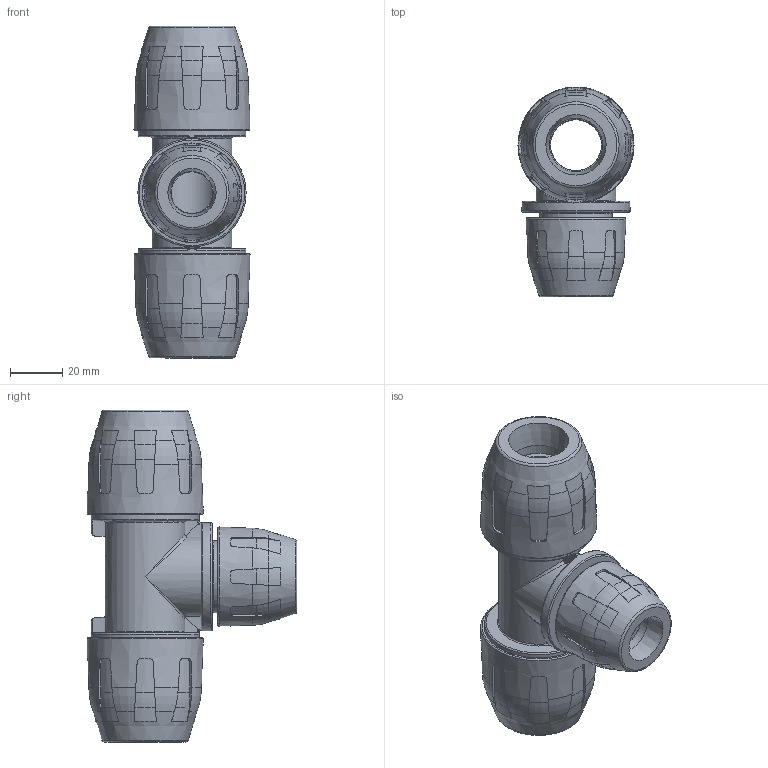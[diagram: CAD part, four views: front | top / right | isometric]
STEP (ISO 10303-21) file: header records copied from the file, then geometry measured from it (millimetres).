
FILE_DESCRIPTION( ( 'STEP AP214' ), '1' );
FILE_NAME( ' ', ' ', ( ' ' ), ( ' ' ), 'PSStep 11.0', 'VISI 17.0', ' ' );
FILE_SCHEMA( ( 'AUTOMOTIVE_DESIGN { 1 0 10303 214 1 1 1 1 }' ) );
Length unit declared in the file: millimetre
Products named in the file (5): 1; 2; 3; 4; 5
Bounding box: 44.45 x 80.34 x 127.2 mm (x, y, z)
Volume: 137598.4 mm3; surface area: 66547.3 mm2
Topology: 5 solids, 5 shells, 725 faces, 1954 edges, 1261 vertices
Faces by surface type: plane 310, cone 188, bspline 110, cylinder 87, torus 30
Full cylindrical faces by diameter (mm): 16 x1, 16.5 x1, 16.6 x3, 19.518 x1, 20.6 x4, 27.6 x2, 28.5 x2, 28.9 x1, 31 x1, 32.232 x2, 32.3 x2, 33.9 x2, 34.736 x1, 36.739 x2, 36.8 x2, 37.435 x2, 41.439 x3, 42 x2
Entity records: 35669 total; most frequent: CARTESIAN_POINT 13300, ORIENTED_EDGE 3686, DIRECTION 3116, EDGE_CURVE 1843, AXIS2_PLACEMENT_3D 1356, VERTEX_POINT 1219, EDGE_LOOP 828, FACE_OUTER_BOUND 775
